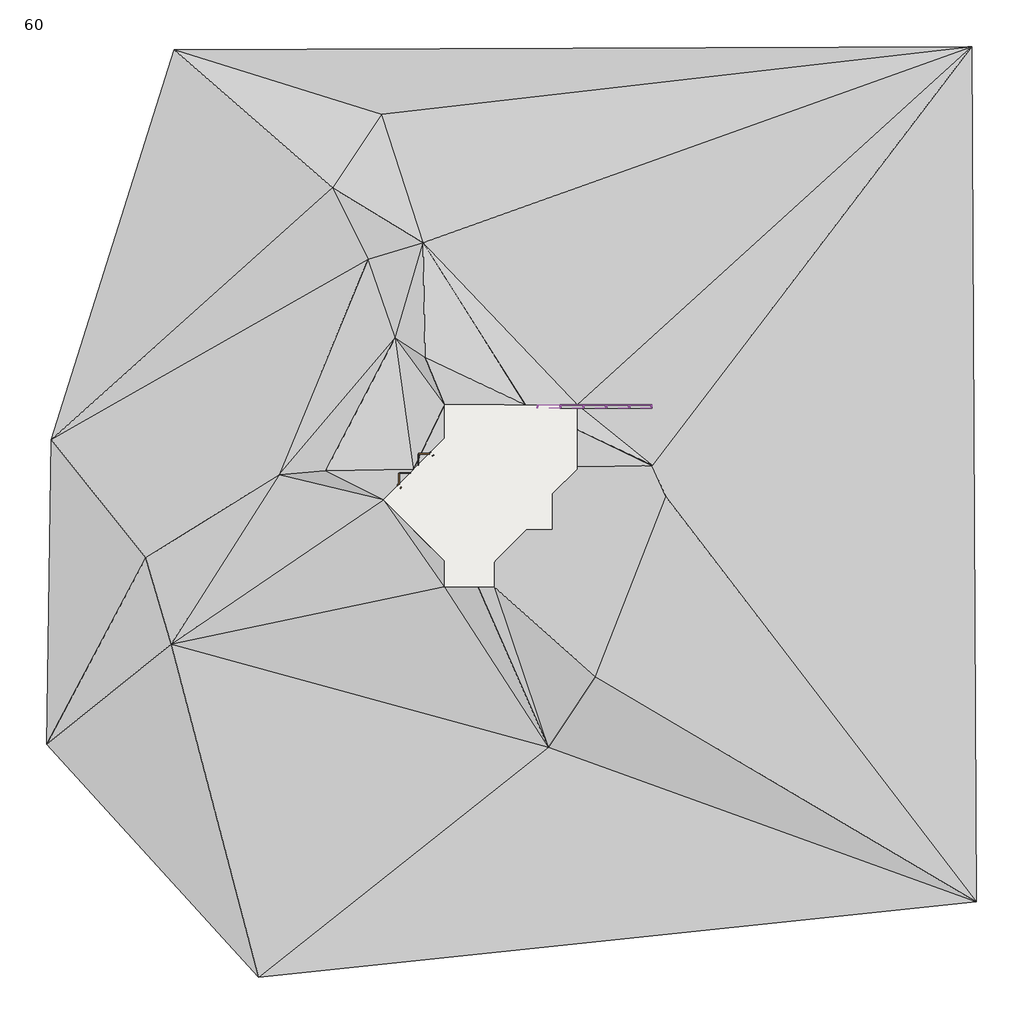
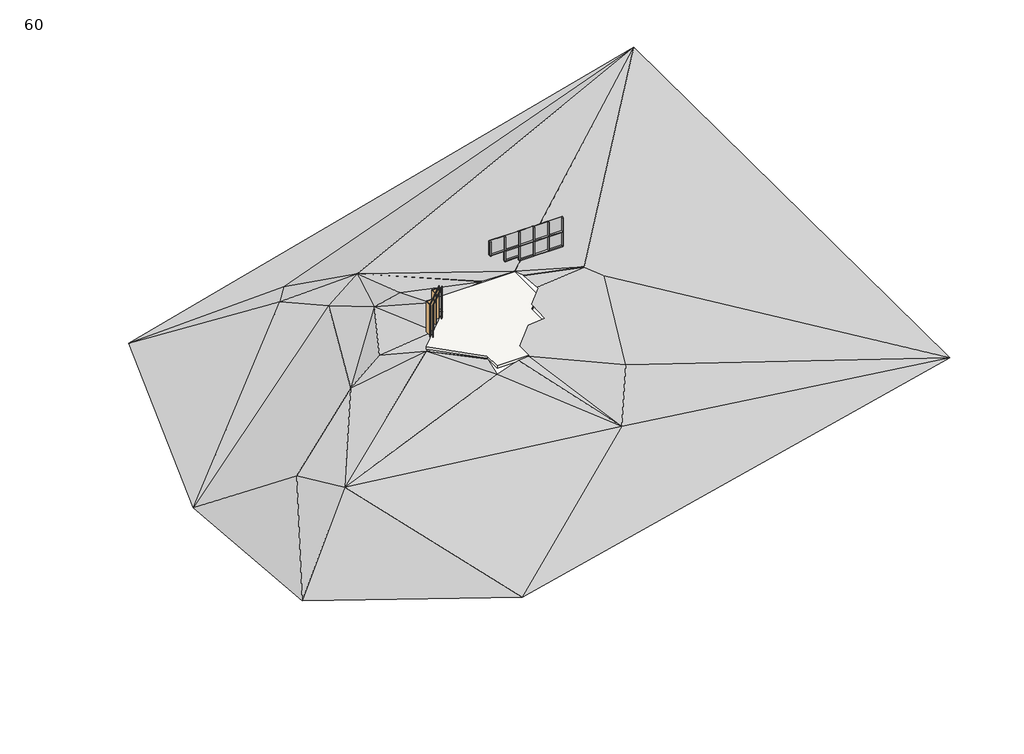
# One storey, incomplete: 24 members, 12 plates, 1 door, 1 proxy, 1 slab.
"""IFC4 building model written with IfcOpenShell, lengths in millimetres."""

from ifc_helpers import new_model, si_unit, frame, origin, place, context, project, spatial, polyline, outline, extrude, triangles, transform, mapped, element, save
from components import bifold4_bifold4_2c2d13ea, rectangular_mullion_50_x_150mm_90195c33, rectangular_mullion_50_x_150mm_94d7f4e7, rectangular_mullion_50_x_150mm_61b87fc8, rectangular_mullion_50_x_150mm_54cde4f8, rectangular_mullion_50_x_150mm_9c7f8450, rectangular_mullion_50_x_150mm_8df5a83b, rectangular_mullion_50_x_150mm_23f486f2, rectangular_mullion_50_x_150mm_8bb159a6, rectangular_mullion_50_x_150mm_4d08662a, rectangular_mullion_50_x_150mm_73811cb7, rectangular_mullion_50_x_150mm_ea958e3b, rectangular_mullion_50_x_150mm_4bc3db27, rectangular_mullion_50_x_150mm_a7870356, rectangular_mullion_50_x_150mm_18f4aede, rectangular_mullion_50_x_150mm_c8b1eae1, rectangular_mullion_50_x_150mm_f49bdeed, system_panel_glazed_8429cb43, system_panel_glazed_8be5ad0f, system_panel_glazed_a9205bdd, system_panel_glazed_5bfc719e, system_panel_glazed_a50661dc, system_panel_glazed_0d3d9f87, system_panel_glazed_8e65953c, system_panel_glazed_bfbae2ba, system_panel_glazed_4d51f839, system_panel_glazed_eda91ae9, system_panel_glazed_fd479a10

model = new_model("IFC4")

# Units and contexts
model_context = context("Model", 3, world=origin())
ifc_project = project(units=[si_unit("LENGTHUNIT", "METRE", prefix="MILLI")], contexts=[model_context])

# Site, building, storey
site = spatial("IfcSite", under=ifc_project)
building = spatial("IfcBuilding", under=site)
storey = spatial("IfcBuildingStorey", under=building, Name="60", Elevation=600.0)

# Proxy
placement = place(None, origin())
element("IfcBuildingElementProxy", 1, Name="Building Element Proxy", at=placement, inside=storey, context=model_context, shape_type="Tessellation", body=[
    triangles([(8214.6067291, 26577.1010193, 1200.0000092), (-24658.0530396, 26449.4250916, -7499.9997665), (-29720.6323975, 10395.0294525, -7299.999765), (-29908.7953308, -2157.1676022, -6000.0000458), (-21162.0989868, -11755.0057434, -3000.0000229), (8388.6373856, -8639.4627731, 1200.0000092), (-13512.3333618, 10437.9535767, 337.7242985), (-13512.2601105, 11824.0666443, 228.1760433), (-10199.1623383, 11823.8922363, 528.1924327), (-10181.7971191, 11823.8910736, 529.8817554), (-8037.259996, 11823.7782898, 479.4462802), (-8037.3140625, 10804.3149353, 804.7109104), (-8037.3146439, 10791.7261688, 805.5285931), (-8037.3948715, 9274.0060181, 925.4781029), (-8037.4001038, 9173.7778336, 920.930052), (-9056.3879059, 8154.897583, 784.4768984), (-9056.4658081, 6673.8315903, 717.2710442), (-10134.6406952, 6673.8885635, 621.8084845), (-11462.7642792, 5345.9050873, 443.9587297), (-11462.7642792, 4324.0665871, 397.5958983), (-12130.4851501, 4324.0665871, 338.4736713), (-13512.5984619, 4324.0665871, -142.0191293), (-13512.5984619, 5377.746167, 263.9042041), (-13512.5984619, 5411.1464539, 265.4196276), (-16025.8694733, 7924.6825653, 156.9302831), (-14785.2800812, 9165.1405701, 323.0582242), (-18403.9522247, 9106.7598312, 0.0), (-15540.9444214, 14595.5416626, -1000.0000076), (-7283.2031158, 628.6526888, 600.0000046), (-4396.4019974, 8046.6687241, 1200.0000092), (-4952.8866348, 9337.8515396, 1200.0000092), (-4962.3918686, 9323.6157806, 1200.0000092), (-9232.6928421, -2284.4618671, -1200.0000092), (-20335.6819885, 8951.1635147, -1500.0000114), (-14395.3550446, 18496.8942261, -1500.0000114), (-16658.3459839, 17816.8368988, -2500.0000191), (-24772.7995239, 1969.2533455, -2500.0000191), (-25821.6959656, 5525.3551804, -3500.0000267), (-18120.1276886, 20756.530719, -3500.0000267), (-16109.7562134, 23785.1900391, -5000.0000381), (-14316.4459076, 13789.67341, 0.0)], [[4, 5, 37], [38, 37, 34], [37, 38, 4], [25, 34, 37], [38, 34, 3], [22, 37, 33], [4, 38, 3], [22, 23, 25], [25, 27, 34], [25, 23, 24], [27, 25, 26], [25, 37, 22], [37, 5, 33], [34, 27, 28], [3, 36, 39], [3, 34, 36], [2, 39, 40], [39, 2, 3], [35, 40, 39], [2, 40, 1], [39, 36, 35], [8, 28, 26], [28, 41, 35], [8, 41, 28], [9, 35, 41], [28, 35, 36], [8, 26, 7], [36, 34, 28], [27, 26, 28], [40, 35, 1], [21, 33, 20], [33, 21, 22], [20, 18, 19], [17, 18, 20], [20, 33, 29], [29, 6, 30], [6, 29, 33], [16, 17, 15], [30, 17, 29], [15, 17, 30], [6, 1, 30], [29, 17, 20], [33, 5, 6], [14, 15, 32], [11, 35, 10], [10, 35, 9], [13, 32, 31], [32, 13, 14], [32, 30, 31], [13, 31, 12], [31, 11, 12], [11, 31, 1], [1, 35, 11], [30, 1, 31], [15, 30, 32], [9, 41, 8]], closed=False),
])

# Door
bifold4_bifold4_shape = bifold4_bifold4_2c2d13ea(model_context)
element("IfcDoor", 2, ObjectType="bifold4 : bifold4", at=placement, inside=storey, context=model_context, shape_type="MappedRepresentation", body=[
    mapped(bifold4_bifold4_shape, transform((-14710.5871574, 9133.7656611, 600.0), x_axis=(0.7071440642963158, 0.7070694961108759, 0.0), y_axis=(-0.7070694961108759, 0.7071440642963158, 0.0), z_axis=(0.0, 0.0, 1.0))),
])

# Members
rectangular_mullion_50_x_150mm_shape = rectangular_mullion_50_x_150mm_90195c33(model_context)
element("IfcMember", 3, ObjectType="Rectangular Mullion : 50 x 150mm", at=placement, inside=storey, context=model_context, shape_type="MappedRepresentation", body=[
    mapped(rectangular_mullion_50_x_150mm_shape, transform((-8761.2560399, 11748.7662115, 1470.0), x_axis=(0.0, 0.0, -1.0), y_axis=(0.0, 1.0, 0.0), z_axis=(1.0, 0.0, 0.0))),
])
element("IfcMember", 4, ObjectType="Rectangular Mullion : 50 x 150mm", at=placement, inside=storey, context=model_context, shape_type="MappedRepresentation", body=[
    mapped(rectangular_mullion_50_x_150mm_shape, transform((-7816.2560399, 11748.7662115, 1200.0), x_axis=(0.0, 0.0, -1.0), y_axis=(0.0, 1.0, 0.0), z_axis=(1.0, 0.0, 0.0))),
])
rectangular_mullion_50_x_150mm_2_shape = rectangular_mullion_50_x_150mm_94d7f4e7(model_context)
element("IfcMember", 5, ObjectType="Rectangular Mullion : 50 x 150mm", at=placement, inside=storey, context=model_context, shape_type="MappedRepresentation", body=[
    mapped(rectangular_mullion_50_x_150mm_2_shape, transform((-5927.2560416, 11748.7662115, 1200.0), x_axis=(0.0, 0.0, -1.0), y_axis=(0.0, 1.0, 0.0), z_axis=(1.0, 0.0, 0.0))),
])
rectangular_mullion_50_x_150mm_3_shape = rectangular_mullion_50_x_150mm_61b87fc8(model_context)
element("IfcMember", 6, ObjectType="Rectangular Mullion : 50 x 150mm", at=placement, inside=storey, context=model_context, shape_type="MappedRepresentation", body=[
    mapped(rectangular_mullion_50_x_150mm_3_shape, transform((-6872.2560399, 11748.7662115, 1200.0), x_axis=(0.0, 0.0, -1.0), y_axis=(0.0, 1.0, 0.0), z_axis=(1.0, 0.0, 0.0))),
])
rectangular_mullion_50_x_150mm_4_shape = rectangular_mullion_50_x_150mm_54cde4f8(model_context)
element("IfcMember", 7, ObjectType="Rectangular Mullion : 50 x 150mm", at=placement, inside=storey, context=model_context, shape_type="MappedRepresentation", body=[
    mapped(rectangular_mullion_50_x_150mm_4_shape, transform((-5007.264208, 11748.7662115, 1200.0), x_axis=(0.0, 0.0, -1.0), y_axis=(0.0, 1.0, 0.0), z_axis=(1.0, 0.0, 0.0))),
])
rectangular_mullion_50_x_150mm_5_shape = rectangular_mullion_50_x_150mm_9c7f8450(model_context)
element("IfcMember", 8, ObjectType="Rectangular Mullion : 50 x 150mm", at=placement, inside=storey, context=model_context, shape_type="MappedRepresentation", body=[
    mapped(rectangular_mullion_50_x_150mm_5_shape, transform((-7817.4750985, 11748.7662115, 1470.0), x_axis=(0.0, 0.0, -1.0), y_axis=(0.0, 1.0, 0.0), z_axis=(1.0, 0.0, 0.0))),
])
rectangular_mullion_50_x_150mm_6_shape = rectangular_mullion_50_x_150mm_8df5a83b(model_context)
element("IfcMember", 9, ObjectType="Rectangular Mullion : 50 x 150mm", at=placement, inside=storey, context=model_context, shape_type="MappedRepresentation", body=[
    mapped(rectangular_mullion_50_x_150mm_6_shape, transform((-5902.2560416, 11748.7662115, 1200.0), x_axis=(-1.0, 0.0, 0.0), y_axis=(0.0, 1.0, 0.0), z_axis=(0.0, 0.0, -1.0))),
])
element("IfcMember", 10, ObjectType="Rectangular Mullion : 50 x 150mm", at=placement, inside=storey, context=model_context, shape_type="MappedRepresentation", body=[
    mapped(rectangular_mullion_50_x_150mm_6_shape, transform((-6847.2560399, 11748.7662115, 1200.0), x_axis=(-1.0, 0.0, 0.0), y_axis=(0.0, 1.0, 0.0), z_axis=(0.0, 0.0, -1.0))),
])
element("IfcMember", 11, ObjectType="Rectangular Mullion : 50 x 150mm", at=placement, inside=storey, context=model_context, shape_type="MappedRepresentation", body=[
    mapped(rectangular_mullion_50_x_150mm_6_shape, transform((-7791.2560399, 11748.7662115, 1200.0), x_axis=(-1.0, 0.0, 0.0), y_axis=(0.0, 1.0, 0.0), z_axis=(0.0, 0.0, -1.0))),
])
rectangular_mullion_50_x_150mm_7_shape = rectangular_mullion_50_x_150mm_23f486f2(model_context)
element("IfcMember", 12, ObjectType="Rectangular Mullion : 50 x 150mm", at=placement, inside=storey, context=model_context, shape_type="MappedRepresentation", body=[
    mapped(rectangular_mullion_50_x_150mm_7_shape, transform((-8736.2560399, 11748.7662115, 1470.0), x_axis=(-1.0, 0.0, 0.0), y_axis=(0.0, 1.0, 0.0), z_axis=(0.0, 0.0, -1.0))),
])
rectangular_mullion_50_x_150mm_8_shape = rectangular_mullion_50_x_150mm_8bb159a6(model_context)
element("IfcMember", 13, ObjectType="Rectangular Mullion : 50 x 150mm", at=placement, inside=storey, context=model_context, shape_type="MappedRepresentation", body=[
    mapped(rectangular_mullion_50_x_150mm_8_shape, transform((-8711.2560399, 11748.7662115, 2206.25), x_axis=(0.0, 0.0, 1.0), y_axis=(0.0, 1.0, 0.0), z_axis=(-1.0, 0.0, 0.0))),
])
element("IfcMember", 14, ObjectType="Rectangular Mullion : 50 x 150mm", at=placement, inside=storey, context=model_context, shape_type="MappedRepresentation", body=[
    mapped(rectangular_mullion_50_x_150mm_8_shape, transform((-6822.2560399, 11748.7662115, 2206.25), x_axis=(0.0, 0.0, 1.0), y_axis=(0.0, 1.0, 0.0), z_axis=(-1.0, 0.0, 0.0))),
])
rectangular_mullion_50_x_150mm_9_shape = rectangular_mullion_50_x_150mm_4d08662a(model_context)
element("IfcMember", 15, ObjectType="Rectangular Mullion : 50 x 150mm", at=placement, inside=storey, context=model_context, shape_type="MappedRepresentation", body=[
    mapped(rectangular_mullion_50_x_150mm_9_shape, transform((-7766.2560399, 11748.7662115, 2206.25), x_axis=(0.0, 0.0, 1.0), y_axis=(0.0, 1.0, 0.0), z_axis=(-1.0, 0.0, 0.0))),
])
rectangular_mullion_50_x_150mm_10_shape = rectangular_mullion_50_x_150mm_73811cb7(model_context)
element("IfcMember", 16, ObjectType="Rectangular Mullion : 50 x 150mm", at=placement, inside=storey, context=model_context, shape_type="MappedRepresentation", body=[
    mapped(rectangular_mullion_50_x_150mm_10_shape, transform((-5877.2560416, 11748.7662115, 2206.25), x_axis=(0.0, 0.0, 1.0), y_axis=(0.0, 1.0, 0.0), z_axis=(-1.0, 0.0, 0.0))),
])
rectangular_mullion_50_x_150mm_11_shape = rectangular_mullion_50_x_150mm_ea958e3b(model_context)
element("IfcMember", 17, ObjectType="Rectangular Mullion : 50 x 150mm", at=placement, inside=storey, context=model_context, shape_type="MappedRepresentation", body=[
    mapped(rectangular_mullion_50_x_150mm_11_shape, transform((-4957.264208, 11748.7662115, 2206.25), x_axis=(1.0, 0.0, 0.0), y_axis=(0.0, 1.0, 0.0), z_axis=(0.0, 0.0, 1.0))),
])
rectangular_mullion_50_x_150mm_12_shape = rectangular_mullion_50_x_150mm_4bc3db27(model_context)
element("IfcMember", 18, ObjectType="Rectangular Mullion : 50 x 150mm", at=placement, inside=storey, context=model_context, shape_type="MappedRepresentation", body=[
    mapped(rectangular_mullion_50_x_150mm_12_shape, transform((-9657.256035, 11748.7662115, 2206.25), x_axis=(0.0, 0.0, 1.0), y_axis=(0.0, 1.0, 0.0), z_axis=(-1.0, 0.0, 0.0))),
])
rectangular_mullion_50_x_150mm_13_shape = rectangular_mullion_50_x_150mm_a7870356(model_context)
element("IfcMember", 19, ObjectType="Rectangular Mullion : 50 x 150mm", at=placement, inside=storey, context=model_context, shape_type="MappedRepresentation", body=[
    mapped(rectangular_mullion_50_x_150mm_13_shape, transform((-9709.1423197, 11748.7662115, 2206.25), x_axis=(0.0, 0.0, 1.0), y_axis=(0.0, 1.0, 0.0), z_axis=(-1.0, 0.0, 0.0))),
])
rectangular_mullion_50_x_150mm_14_shape = rectangular_mullion_50_x_150mm_18f4aede(model_context)
element("IfcMember", 20, ObjectType="Rectangular Mullion : 50 x 150mm", at=placement, inside=storey, context=model_context, shape_type="MappedRepresentation", body=[
    mapped(rectangular_mullion_50_x_150mm_14_shape, transform((-9682.256035, 11748.7662115, 2180.0), x_axis=(-1.0, 0.0, 0.0), y_axis=(0.0, 1.0, 0.0), z_axis=(0.0, 0.0, -1.0))),
])
rectangular_mullion_50_x_150mm_15_shape = rectangular_mullion_50_x_150mm_c8b1eae1(model_context)
element("IfcMember", 21, ObjectType="Rectangular Mullion : 50 x 150mm", at=placement, inside=storey, context=model_context, shape_type="MappedRepresentation", body=[
    mapped(rectangular_mullion_50_x_150mm_15_shape, transform((-5902.2560416, 11748.7662115, 2206.25), x_axis=(-1.0, 0.0, 0.0), y_axis=(0.0, 1.0, 0.0), z_axis=(0.0, 0.0, -1.0))),
])
element("IfcMember", 22, ObjectType="Rectangular Mullion : 50 x 150mm", at=placement, inside=storey, context=model_context, shape_type="MappedRepresentation", body=[
    mapped(rectangular_mullion_50_x_150mm_15_shape, transform((-6847.2560399, 11748.7662115, 2206.25), x_axis=(-1.0, 0.0, 0.0), y_axis=(0.0, 1.0, 0.0), z_axis=(0.0, 0.0, -1.0))),
])
element("IfcMember", 23, ObjectType="Rectangular Mullion : 50 x 150mm", at=placement, inside=storey, context=model_context, shape_type="MappedRepresentation", body=[
    mapped(rectangular_mullion_50_x_150mm_15_shape, transform((-7791.2560399, 11748.7662115, 2206.25), x_axis=(-1.0, 0.0, 0.0), y_axis=(0.0, 1.0, 0.0), z_axis=(0.0, 0.0, -1.0))),
])
element("IfcMember", 24, ObjectType="Rectangular Mullion : 50 x 150mm", at=placement, inside=storey, context=model_context, shape_type="MappedRepresentation", body=[
    mapped(rectangular_mullion_50_x_150mm_15_shape, transform((-8736.2560399, 11748.7662115, 2206.25), x_axis=(-1.0, 0.0, 0.0), y_axis=(0.0, 1.0, 0.0), z_axis=(0.0, 0.0, -1.0))),
])
element("IfcMember", 25, ObjectType="Rectangular Mullion : 50 x 150mm", at=placement, inside=storey, context=model_context, shape_type="MappedRepresentation", body=[
    mapped(rectangular_mullion_50_x_150mm_15_shape, transform((-9682.256035, 11748.7662115, 2206.25), x_axis=(-1.0, 0.0, 0.0), y_axis=(0.0, 1.0, 0.0), z_axis=(0.0, 0.0, -1.0))),
])
rectangular_mullion_50_x_150mm_16_shape = rectangular_mullion_50_x_150mm_f49bdeed(model_context)
element("IfcMember", 26, ObjectType="Rectangular Mullion : 50 x 150mm", at=placement, inside=storey, context=model_context, shape_type="MappedRepresentation", body=[
    mapped(rectangular_mullion_50_x_150mm_16_shape, transform((-4957.264208, 11748.7662115, 3157.6015371), x_axis=(1.0, 0.0, 0.0), y_axis=(0.0, 1.0, 0.0), z_axis=(0.0, 0.0, 1.0))),
])

# Plates
system_panel_glazed_shape = system_panel_glazed_8429cb43(model_context)
element("IfcPlate", 27, ObjectType="System Panel : Glazed", at=placement, inside=storey, context=model_context, shape_type="MappedRepresentation", body=[
    mapped(system_panel_glazed_shape, transform((-7319.2560399, 11748.7662115, 1250.0), x_axis=(-1.0, 0.0, 0.0), y_axis=(0.0, -1.0, 0.0), z_axis=(0.0, 0.0, 1.0))),
])
system_panel_glazed_2_shape = system_panel_glazed_8be5ad0f(model_context)
element("IfcPlate", 28, ObjectType="System Panel : Glazed", at=placement, inside=storey, context=model_context, shape_type="MappedRepresentation", body=[
    mapped(system_panel_glazed_2_shape, transform((-8263.7560399, 11748.7662115, 1250.0), x_axis=(-1.0, 0.0, 0.0), y_axis=(0.0, -1.0, 0.0), z_axis=(0.0, 0.0, 1.0))),
])
system_panel_glazed_3_shape = system_panel_glazed_a9205bdd(model_context)
element("IfcPlate", 29, ObjectType="System Panel : Glazed", at=placement, inside=storey, context=model_context, shape_type="MappedRepresentation", body=[
    mapped(system_panel_glazed_3_shape, transform((-6374.7560408, 11748.7662115, 1250.0), x_axis=(-1.0, 0.0, 0.0), y_axis=(0.0, -1.0, 0.0), z_axis=(0.0, 0.0, 1.0))),
])
system_panel_glazed_4_shape = system_panel_glazed_5bfc719e(model_context)
element("IfcPlate", 30, ObjectType="System Panel : Glazed", at=placement, inside=storey, context=model_context, shape_type="MappedRepresentation", body=[
    mapped(system_panel_glazed_4_shape, transform((-9209.2560375, 11748.7662115, 1520.0), x_axis=(-1.0, 0.0, 0.0), y_axis=(0.0, -1.0, 0.0), z_axis=(0.0, 0.0, 1.0))),
])
system_panel_glazed_5_shape = system_panel_glazed_a50661dc(model_context)
element("IfcPlate", 31, ObjectType="System Panel : Glazed", at=placement, inside=storey, context=model_context, shape_type="MappedRepresentation", body=[
    mapped(system_panel_glazed_5_shape, transform((-5442.2601248, 11748.7662115, 1250.0), x_axis=(-1.0, 0.0, 0.0), y_axis=(0.0, -1.0, 0.0), z_axis=(0.0, 0.0, 1.0))),
])
system_panel_glazed_6_shape = system_panel_glazed_0d3d9f87(model_context)
element("IfcPlate", 32, ObjectType="System Panel : Glazed", at=placement, inside=storey, context=model_context, shape_type="MappedRepresentation", body=[
    mapped(system_panel_glazed_6_shape, transform((-9708.1991773, 11748.7662115, 2180.0), x_axis=(-1.0, 0.0, 0.0), y_axis=(0.0, -1.0, 0.0), z_axis=(0.0, 0.0, 1.0))),
])
system_panel_glazed_7_shape = system_panel_glazed_8e65953c(model_context)
element("IfcPlate", 33, ObjectType="System Panel : Glazed", at=placement, inside=storey, context=model_context, shape_type="MappedRepresentation", body=[
    mapped(system_panel_glazed_7_shape, transform((-5442.2601248, 11748.7662115, 2231.25), x_axis=(-1.0, 0.0, 0.0), y_axis=(0.0, -1.0, 0.0), z_axis=(0.0, 0.0, 1.0))),
])
system_panel_glazed_8_shape = system_panel_glazed_bfbae2ba(model_context)
element("IfcPlate", 34, ObjectType="System Panel : Glazed", at=placement, inside=storey, context=model_context, shape_type="MappedRepresentation", body=[
    mapped(system_panel_glazed_8_shape, transform((-6374.7560408, 11748.7662115, 2231.25), x_axis=(-1.0, 0.0, 0.0), y_axis=(0.0, -1.0, 0.0), z_axis=(0.0, 0.0, 1.0))),
])
element("IfcPlate", 35, ObjectType="System Panel : Glazed", at=placement, inside=storey, context=model_context, shape_type="MappedRepresentation", body=[
    mapped(system_panel_glazed_8_shape, transform((-8263.7560399, 11748.7662115, 2231.25), x_axis=(-1.0, 0.0, 0.0), y_axis=(0.0, -1.0, 0.0), z_axis=(0.0, 0.0, 1.0))),
])
system_panel_glazed_9_shape = system_panel_glazed_4d51f839(model_context)
element("IfcPlate", 36, ObjectType="System Panel : Glazed", at=placement, inside=storey, context=model_context, shape_type="MappedRepresentation", body=[
    mapped(system_panel_glazed_9_shape, transform((-7319.2560399, 11748.7662115, 2231.25), x_axis=(-1.0, 0.0, 0.0), y_axis=(0.0, -1.0, 0.0), z_axis=(0.0, 0.0, 1.0))),
])
system_panel_glazed_10_shape = system_panel_glazed_eda91ae9(model_context)
element("IfcPlate", 37, ObjectType="System Panel : Glazed", at=placement, inside=storey, context=model_context, shape_type="MappedRepresentation", body=[
    mapped(system_panel_glazed_10_shape, transform((-9209.2560375, 11748.7662115, 2231.25), x_axis=(-1.0, 0.0, 0.0), y_axis=(0.0, -1.0, 0.0), z_axis=(0.0, 0.0, 1.0))),
])
system_panel_glazed_11_shape = system_panel_glazed_fd479a10(model_context)
element("IfcPlate", 38, ObjectType="System Panel : Glazed", at=placement, inside=storey, context=model_context, shape_type="MappedRepresentation", body=[
    mapped(system_panel_glazed_11_shape, transform((-9708.1991773, 11748.7662115, 2231.25), x_axis=(-1.0, 0.0, 0.0), y_axis=(0.0, -1.0, 0.0), z_axis=(0.0, 0.0, 1.0))),
])

# Slab
element("IfcSlab", 39, ObjectType="Pad 1", at=placement, inside=storey, context=model_context, shape_type="SweptSolid", body=[
    extrude(outline(polyline([(-13512.3333357, 10437.9535522), (-13512.2602492, 11824.0664844), (-8037.2602568, 11823.7778004), (-8037.3999851, 9173.7778041), (-9056.3876926, 8154.8975487), (-9056.4657857, 6673.8315336), (-10134.6403773, 6673.8883832), (-11462.7637869, 5345.9050239), (-11462.7637869, 4324.0664918), (-13512.5983876, 4324.0664918), (-13512.5983876, 5411.1462266), (-16025.8695244, 7924.6824153), (-13512.3333357, 10437.9535522)])), frame((0.0, 0.0, 300.0), z_axis=(0.0, 0.0, 1.0), x_axis=(1.0, 0.0, 0.0)), (0.0, 0.0, 1.0), 150.0),
])

save(model, "model.ifc")
